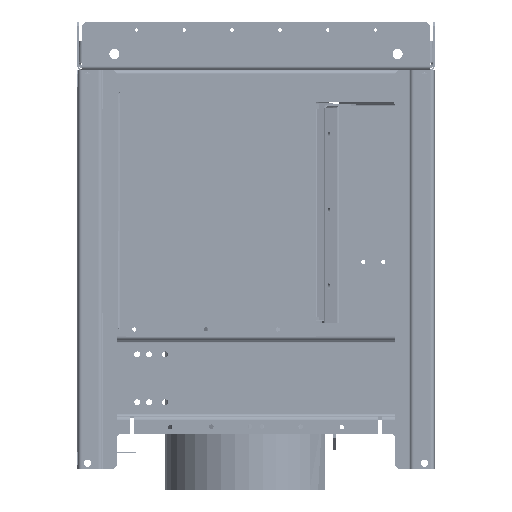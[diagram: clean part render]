
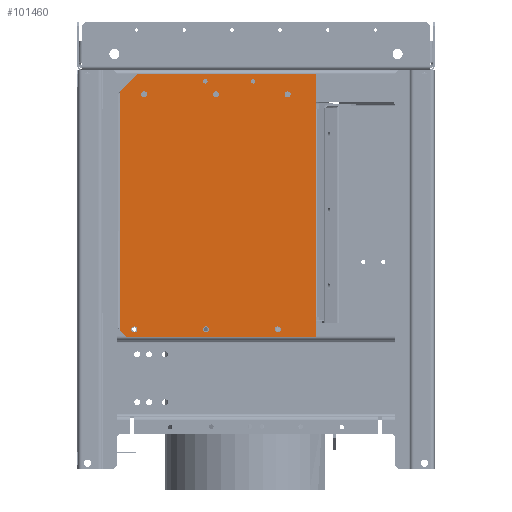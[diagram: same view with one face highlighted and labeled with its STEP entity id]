
A CAD part, left-side view. The second image highlights one B-rep face of the part: STEP entity #101460.
In plain terms, the highlighted planar face has unit normal (-1, 0, 0) as drawn and (0, 0, -1) by its records, which use the part's own axes.
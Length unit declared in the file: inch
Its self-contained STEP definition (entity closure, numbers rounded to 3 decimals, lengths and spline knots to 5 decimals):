
#100313=DIRECTION('',(-1.,0.,0.));
#100314=VECTOR('',#100313,1.25);
#100315=CARTESIAN_POINT('',(8.2475,8.01975,-0.0396));
#100316=LINE('',#100315,#100314);
#100387=DIRECTION('',(1.,0.,0.));
#100388=VECTOR('',#100387,14.9098);
#100389=CARTESIAN_POINT('',(-7.0799,20.34442,-0.0396));
#100390=LINE('',#100389,#100388);
#100409=DIRECTION('',(-0.707,-0.707,0.));
#100410=VECTOR('',#100409,1.65124);
#100411=CARTESIAN_POINT('',(-7.0799,20.34442,-0.0396));
#100412=LINE('',#100411,#100410);
#100413=DIRECTION('',(0.,-1.,0.));
#100414=VECTOR('',#100413,11.15707);
#100415=CARTESIAN_POINT('',(-8.2475,19.17682,-0.0396));
#100416=LINE('',#100415,#100414);
#100417=DIRECTION('',(1.,0.,0.));
#100418=VECTOR('',#100417,2.2);
#100419=CARTESIAN_POINT('',(-8.2475,8.01975,-0.0396));
#100420=LINE('',#100419,#100418);
#100421=DIRECTION('',(0.,1.,0.));
#100422=VECTOR('',#100421,11.90707);
#100423=CARTESIAN_POINT('',(8.2475,8.01975,-0.0396));
#100424=LINE('',#100423,#100422);
#100425=DIRECTION('',(-0.707,0.707,
0.));
#100426=VECTOR('',#100425,0.59058);
#100427=CARTESIAN_POINT('',(8.2475,19.92682,-0.0396));
#100428=LINE('',#100427,#100426);
#100429=CARTESIAN_POINT('',(-6.9475,14.30402,-0.0396));
#100430=DIRECTION('',(0.,0.,-1.));
#100431=DIRECTION('',(-1.,0.,0.));
#100432=AXIS2_PLACEMENT_3D('',#100429,#100430,#100431);
#100434=CARTESIAN_POINT('',(-6.9475,14.30402,-0.0396));
#100435=DIRECTION('',(0.,0.,-1.));
#100436=DIRECTION('',(1.,0.,0.));
#100437=AXIS2_PLACEMENT_3D('',#100434,#100435,#100436);
#100439=CARTESIAN_POINT('',(-6.9475,9.80402,-0.0396));
#100440=DIRECTION('',(0.,0.,-1.));
#100441=DIRECTION('',(-1.,0.,0.));
#100442=AXIS2_PLACEMENT_3D('',#100439,#100440,#100441);
#100444=CARTESIAN_POINT('',(-6.9475,9.80402,-0.0396));
#100445=DIRECTION('',(0.,0.,-1.));
#100446=DIRECTION('',(1.,0.,0.));
#100447=AXIS2_PLACEMENT_3D('',#100444,#100445,#100446);
#100449=CARTESIAN_POINT('',(7.7975,19.42402,-0.0396));
#100450=DIRECTION('',(0.,0.,-1.));
#100451=DIRECTION('',(-1.,0.,0.));
#100452=AXIS2_PLACEMENT_3D('',#100449,#100450,#100451);
#100454=CARTESIAN_POINT('',(7.7975,19.42402,-0.0396));
#100455=DIRECTION('',(0.,0.,-1.));
#100456=DIRECTION('',(1.,0.,0.));
#100457=AXIS2_PLACEMENT_3D('',#100454,#100455,#100456);
#100459=CARTESIAN_POINT('',(7.7975,14.92402,-0.0396));
#100460=DIRECTION('',(0.,0.,-1.));
#100461=DIRECTION('',(-1.,0.,0.));
#100462=AXIS2_PLACEMENT_3D('',#100459,#100460,#100461);
#100464=CARTESIAN_POINT('',(7.7975,14.92402,-0.0396));
#100465=DIRECTION('',(0.,0.,-1.));
#100466=DIRECTION('',(1.,0.,0.));
#100467=AXIS2_PLACEMENT_3D('',#100464,#100465,#100466);
#100469=CARTESIAN_POINT('',(7.7975,10.42402,-0.0396));
#100470=DIRECTION('',(0.,0.,-1.));
#100471=DIRECTION('',(-1.,0.,0.));
#100472=AXIS2_PLACEMENT_3D('',#100469,#100470,#100471);
#100474=CARTESIAN_POINT('',(7.7975,10.42402,-0.0396));
#100475=DIRECTION('',(0.,0.,-1.));
#100476=DIRECTION('',(1.,0.,0.));
#100477=AXIS2_PLACEMENT_3D('',#100474,#100475,#100476);
#100479=CARTESIAN_POINT('',(-7.7675,14.96975,-0.0396));
#100480=DIRECTION('',(0.,0.,-1.));
#100481=DIRECTION('',(1.,0.,0.));
#100482=AXIS2_PLACEMENT_3D('',#100479,#100480,#100481);
#100484=CARTESIAN_POINT('',(-7.7675,14.96975,-0.0396));
#100485=DIRECTION('',(0.,0.,-1.));
#100486=DIRECTION('',(-1.,0.,0.));
#100487=AXIS2_PLACEMENT_3D('',#100484,#100485,#100486);
#100489=CARTESIAN_POINT('',(-7.7675,11.96975,-0.0396));
#100490=DIRECTION('',(0.,0.,-1.));
#100491=DIRECTION('',(1.,0.,0.));
#100492=AXIS2_PLACEMENT_3D('',#100489,#100490,#100491);
#100494=CARTESIAN_POINT('',(-7.7675,11.96975,-0.0396));
#100495=DIRECTION('',(0.,0.,-1.));
#100496=DIRECTION('',(-1.,0.,0.));
#100497=AXIS2_PLACEMENT_3D('',#100494,#100495,#100496);
#100499=CARTESIAN_POINT('',(-6.9475,18.80402,-0.0396));
#100500=DIRECTION('',(0.,0.,-1.));
#100501=DIRECTION('',(-1.,0.,0.));
#100502=AXIS2_PLACEMENT_3D('',#100499,#100500,#100501);
#100504=CARTESIAN_POINT('',(-6.9475,18.80402,-0.0396));
#100505=DIRECTION('',(0.,0.,-1.));
#100506=DIRECTION('',(1.,0.,0.));
#100507=AXIS2_PLACEMENT_3D('',#100504,#100505,#100506);
#100513=DIRECTION('',(-1.,0.,0.));
#100514=VECTOR('',#100513,13.045);
#100515=CARTESIAN_POINT('',(6.9975,8.01975,-0.0396));
#100516=LINE('',#100515,#100514);
#100765=CARTESIAN_POINT('',(-8.2475,19.17682,-0.0396));
#100766=VERTEX_POINT('',#100765);
#100767=CARTESIAN_POINT('',(-7.0799,20.34442,-0.0396));
#100768=VERTEX_POINT('',#100767);
#100769=CARTESIAN_POINT('',(-8.2475,8.01975,-0.0396));
#100770=VERTEX_POINT('',#100769);
#100771=CARTESIAN_POINT('',(-6.0475,8.01975,-0.0396));
#100772=VERTEX_POINT('',#100771);
#100829=CARTESIAN_POINT('',(6.9975,8.01975,-0.0396));
#100830=VERTEX_POINT('',#100829);
#100831=CARTESIAN_POINT('',(8.2475,8.01975,-0.0396));
#100832=VERTEX_POINT('',#100831);
#100833=CARTESIAN_POINT('',(8.2475,19.92682,-0.0396));
#100834=VERTEX_POINT('',#100833);
#100835=CARTESIAN_POINT('',(7.8299,20.34442,-0.0396));
#100836=VERTEX_POINT('',#100835);
#100842=CARTESIAN_POINT('',(-7.1375,14.30402,-0.0396));
#100843=CARTESIAN_POINT('',(-6.7575,14.30402,-0.0396));
#100844=VERTEX_POINT('',#100842);
#100845=VERTEX_POINT('',#100843);
#100846=CARTESIAN_POINT('',(-7.1375,9.80402,-0.0396));
#100847=CARTESIAN_POINT('',(-6.7575,9.80402,-0.0396));
#100848=VERTEX_POINT('',#100846);
#100849=VERTEX_POINT('',#100847);
#100850=CARTESIAN_POINT('',(7.6075,19.42402,-0.0396));
#100851=CARTESIAN_POINT('',(7.9875,19.42402,-0.0396));
#100852=VERTEX_POINT('',#100850);
#100853=VERTEX_POINT('',#100851);
#100854=CARTESIAN_POINT('',(7.6075,14.92402,-0.0396));
#100855=CARTESIAN_POINT('',(7.9875,14.92402,-0.0396));
#100856=VERTEX_POINT('',#100854);
#100857=VERTEX_POINT('',#100855);
#100858=CARTESIAN_POINT('',(7.6075,10.42402,-0.0396));
#100859=CARTESIAN_POINT('',(7.9875,10.42402,-0.0396));
#100860=VERTEX_POINT('',#100858);
#100861=VERTEX_POINT('',#100859);
#100862=CARTESIAN_POINT('',(-7.6275,14.96975,-0.0396));
#100863=CARTESIAN_POINT('',(-7.9075,14.96975,-0.0396));
#100864=VERTEX_POINT('',#100862);
#100865=VERTEX_POINT('',#100863);
#100866=CARTESIAN_POINT('',(-7.6275,11.96975,-0.0396));
#100867=CARTESIAN_POINT('',(-7.9075,11.96975,-0.0396));
#100868=VERTEX_POINT('',#100866);
#100869=VERTEX_POINT('',#100867);
#100870=CARTESIAN_POINT('',(-7.1375,18.80402,-0.0396));
#100871=CARTESIAN_POINT('',(-6.7575,18.80402,-0.0396));
#100872=VERTEX_POINT('',#100870);
#100873=VERTEX_POINT('',#100871);
#101396=CARTESIAN_POINT('',(0.,0.,-0.0396));
#101397=DIRECTION('',(0.,0.,1.));
#101398=DIRECTION('',(1.,0.,0.));
#101399=AXIS2_PLACEMENT_3D('',#101396,#101397,#101398);
#101400=PLANE('',#101399);
#101401=ORIENTED_EDGE('',*,*,#100975,.T.);
#101402=ORIENTED_EDGE('',*,*,#100991,.T.);
#101403=ORIENTED_EDGE('',*,*,#101004,.T.);
#101405=ORIENTED_EDGE('',*,*,#101404,.F.);
#101406=ORIENTED_EDGE('',*,*,#101233,.F.);
#101407=ORIENTED_EDGE('',*,*,#101246,.T.);
#101408=ORIENTED_EDGE('',*,*,#101261,.T.);
#101409=ORIENTED_EDGE('',*,*,#101388,.F.);
#101410=EDGE_LOOP('',(#101401,#101402,#101403,#101405,#101406,#101407,#101408,
#101409));
#101411=FACE_OUTER_BOUND('',#101410,.F.);
#101413=ORIENTED_EDGE('',*,*,#101412,.T.);
#101415=ORIENTED_EDGE('',*,*,#101414,.T.);
#101416=EDGE_LOOP('',(#101413,#101415));
#101417=FACE_BOUND('',#101416,.F.);
#101419=ORIENTED_EDGE('',*,*,#101418,.T.);
#101421=ORIENTED_EDGE('',*,*,#101420,.T.);
#101422=EDGE_LOOP('',(#101419,#101421));
#101423=FACE_BOUND('',#101422,.F.);
#101425=ORIENTED_EDGE('',*,*,#101424,.T.);
#101427=ORIENTED_EDGE('',*,*,#101426,.T.);
#101428=EDGE_LOOP('',(#101425,#101427));
#101429=FACE_BOUND('',#101428,.F.);
#101431=ORIENTED_EDGE('',*,*,#101430,.T.);
#101433=ORIENTED_EDGE('',*,*,#101432,.T.);
#101434=EDGE_LOOP('',(#101431,#101433));
#101435=FACE_BOUND('',#101434,.F.);
#101437=ORIENTED_EDGE('',*,*,#101436,.T.);
#101439=ORIENTED_EDGE('',*,*,#101438,.T.);
#101440=EDGE_LOOP('',(#101437,#101439));
#101441=FACE_BOUND('',#101440,.F.);
#101443=ORIENTED_EDGE('',*,*,#101442,.T.);
#101445=ORIENTED_EDGE('',*,*,#101444,.T.);
#101446=EDGE_LOOP('',(#101443,#101445));
#101447=FACE_BOUND('',#101446,.F.);
#101449=ORIENTED_EDGE('',*,*,#101448,.T.);
#101451=ORIENTED_EDGE('',*,*,#101450,.T.);
#101452=EDGE_LOOP('',(#101449,#101451));
#101453=FACE_BOUND('',#101452,.F.);
#101455=ORIENTED_EDGE('',*,*,#101454,.T.);
#101457=ORIENTED_EDGE('',*,*,#101456,.T.);
#101458=EDGE_LOOP('',(#101455,#101457));
#101459=FACE_BOUND('',#101458,.F.);
#101460=ADVANCED_FACE('',(#101411,#101417,#101423,#101429,#101435,#101441,
#101447,#101453,#101459),#101400,.F.);
#100433=CIRCLE('',#100432,0.19);
#100438=CIRCLE('',#100437,0.19);
#100443=CIRCLE('',#100442,0.19);
#100448=CIRCLE('',#100447,0.19);
#100453=CIRCLE('',#100452,0.19);
#100458=CIRCLE('',#100457,0.19);
#100463=CIRCLE('',#100462,0.19);
#100468=CIRCLE('',#100467,0.19);
#100473=CIRCLE('',#100472,0.19);
#100478=CIRCLE('',#100477,0.19);
#100483=CIRCLE('',#100482,0.14);
#100488=CIRCLE('',#100487,0.14);
#100493=CIRCLE('',#100492,0.14);
#100498=CIRCLE('',#100497,0.14);
#100503=CIRCLE('',#100502,0.19);
#100508=CIRCLE('',#100507,0.19);
#100975=EDGE_CURVE('',#100768,#100766,#100412,.T.);
#100991=EDGE_CURVE('',#100766,#100770,#100416,.T.);
#101004=EDGE_CURVE('',#100770,#100772,#100420,.T.);
#101233=EDGE_CURVE('',#100832,#100830,#100316,.T.);
#101246=EDGE_CURVE('',#100832,#100834,#100424,.T.);
#101261=EDGE_CURVE('',#100834,#100836,#100428,.T.);
#101388=EDGE_CURVE('',#100768,#100836,#100390,.T.);
#101404=EDGE_CURVE('',#100830,#100772,#100516,.T.);
#101412=EDGE_CURVE('',#100844,#100845,#100433,.T.);
#101414=EDGE_CURVE('',#100845,#100844,#100438,.T.);
#101418=EDGE_CURVE('',#100848,#100849,#100443,.T.);
#101420=EDGE_CURVE('',#100849,#100848,#100448,.T.);
#101424=EDGE_CURVE('',#100852,#100853,#100453,.T.);
#101426=EDGE_CURVE('',#100853,#100852,#100458,.T.);
#101430=EDGE_CURVE('',#100856,#100857,#100463,.T.);
#101432=EDGE_CURVE('',#100857,#100856,#100468,.T.);
#101436=EDGE_CURVE('',#100860,#100861,#100473,.T.);
#101438=EDGE_CURVE('',#100861,#100860,#100478,.T.);
#101442=EDGE_CURVE('',#100864,#100865,#100483,.T.);
#101444=EDGE_CURVE('',#100865,#100864,#100488,.T.);
#101448=EDGE_CURVE('',#100868,#100869,#100493,.T.);
#101450=EDGE_CURVE('',#100869,#100868,#100498,.T.);
#101454=EDGE_CURVE('',#100872,#100873,#100503,.T.);
#101456=EDGE_CURVE('',#100873,#100872,#100508,.T.);
